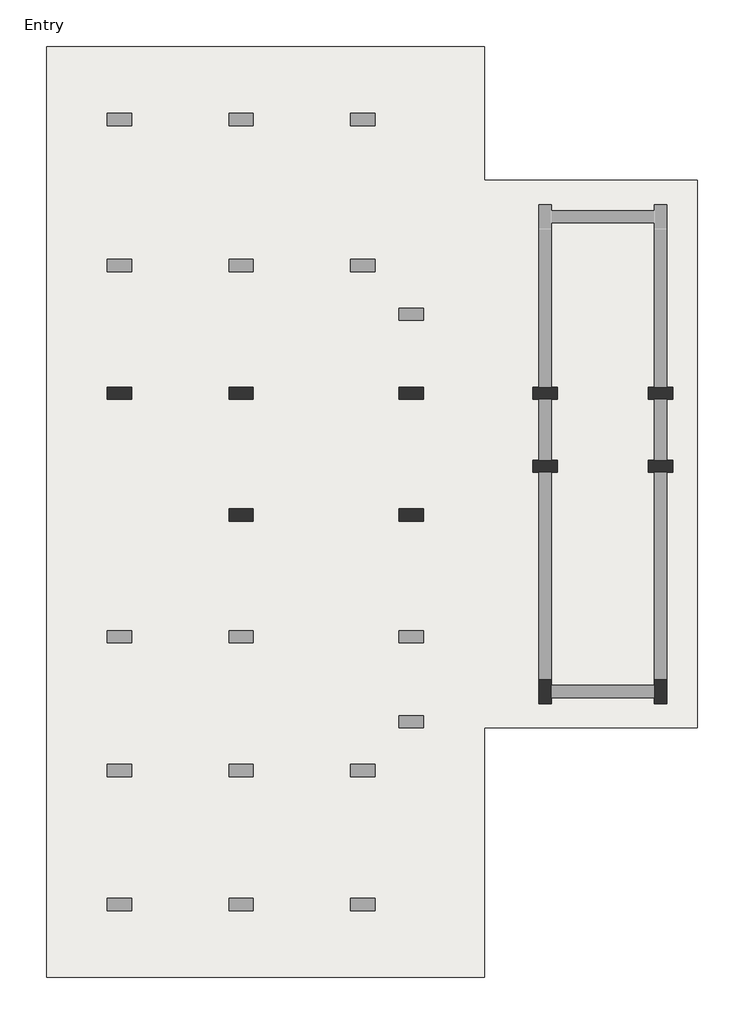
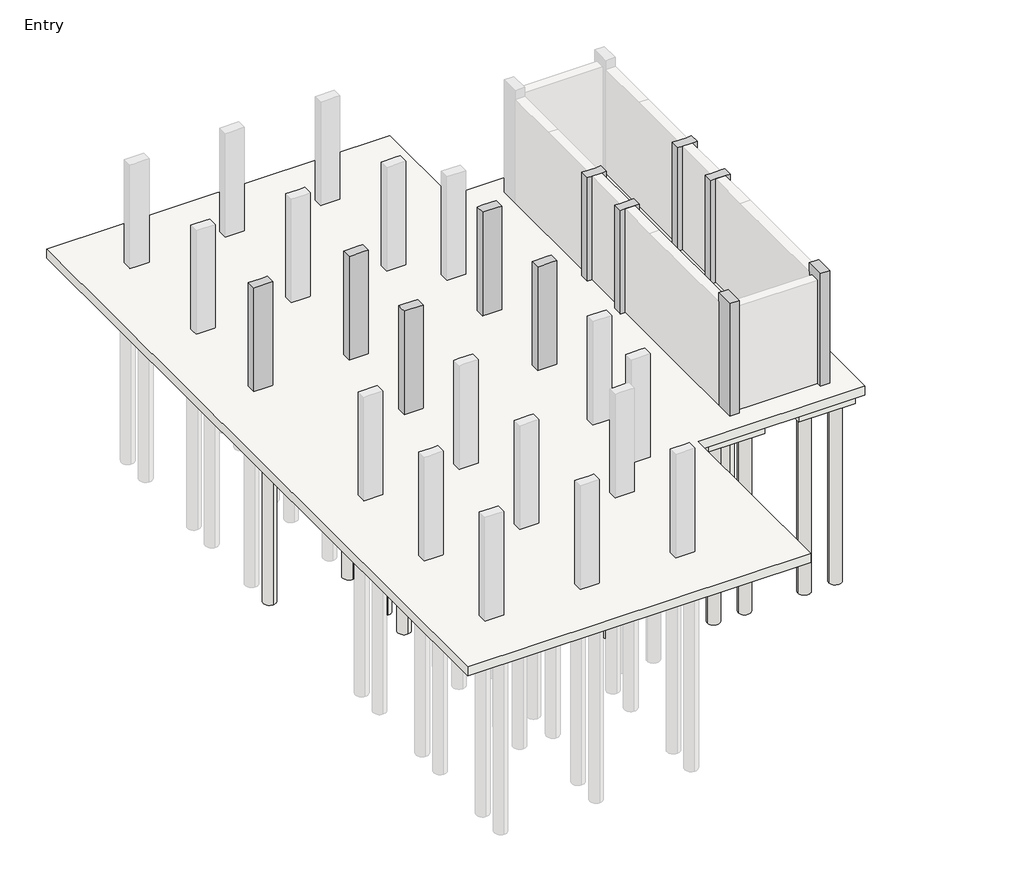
# One storey, part 2 of 3: 35 slabs, 11 columns.
"""IFC4 building model written with IfcOpenShell, lengths in millimetres."""

from ifc_helpers import new_model, si_unit, point, frame, frame_2d, origin, place, context, project, spatial, polyline, circle_curve, trimmed, segment, composite_curve, outline, extrude, faceted_brep, element, save

model = new_model("IFC4")

# Units and contexts
model_context = context("Model", 3, world=origin())
ifc_project = project(units=[si_unit("LENGTHUNIT", "METRE", prefix="MILLI")], contexts=[model_context])

# Site, building, storey
site = spatial("IfcSite", under=ifc_project)
building = spatial("IfcBuilding", under=site)
storey = spatial("IfcBuildingStorey", under=building, Name="Entry", Elevation=0.0)

# Columns
placement = place(None, origin())
element("IfcColumn", 1, ObjectType="Concrete-Rectangular-Column : 12 x 24", at=placement, inside=storey, context=model_context, shape_type="Brep", body=[
    faceted_brep([(-15677.5554735, 7788.9867088, 0.0), (-15067.9554735, 7788.9867088, 0.0), (-15067.9554735, 7484.1867088, 0.0), (-15677.5554735, 7484.1867088, 0.0), (-15677.5554735, 7788.9867088, 3505.2), (-15525.1554735, 7788.9867088, 3505.2), (-15220.3554735, 7788.9867088, 3505.2), (-15067.9554735, 7788.9867088, 3505.2), (-15067.9554735, 7788.9867088, 2895.6), (-15067.9554735, 7484.1867088, 3505.2), (-15067.9554735, 7484.1867088, 2895.6), (-15677.5554735, 7484.1867088, 3505.2)], [[[0, 1, 2, 3]], [[4, 5, 6, 7, 8, 1, 0]], [[7, 9, 10, 2, 1, 8]], [[9, 11, 3, 2, 10]], [[11, 4, 0, 3]], [[4, 11, 9, 7, 6, 5]]]),
])
element("IfcColumn", 2, ObjectType="Concrete-Rectangular-Column : 12 x 24", at=placement, inside=storey, context=model_context, shape_type="Brep", body=[
    faceted_brep([(-12629.5554735, 7788.9867088, 0.0), (-12019.9554735, 7788.9867088, 0.0), (-12019.9554735, 7484.1867088, 0.0), (-12629.5554735, 7484.1867088, 0.0), (-12629.5554735, 7788.9867088, 3505.2), (-12477.1554735, 7788.9867088, 3505.2), (-12172.3554735, 7788.9867088, 3505.2), (-12019.9554735, 7788.9867088, 3505.2), (-12019.9554735, 7788.9867088, 2895.6), (-12629.5554735, 7788.9867088, 2895.6), (-12019.9554735, 7484.1867088, 3505.2), (-12019.9554735, 7484.1867088, 2895.6), (-12172.3554735, 7484.1867088, 3505.2), (-12477.1554735, 7484.1867088, 3505.2), (-12629.5554735, 7484.1867088, 3505.2), (-12629.5554735, 7484.1867088, 2895.6)], [[[0, 1, 2, 3]], [[4, 5, 6, 7, 8, 1, 0, 9]], [[7, 10, 11, 2, 1, 8]], [[10, 12, 13, 14, 15, 3, 2, 11]], [[14, 4, 9, 0, 3, 15]], [[4, 14, 13, 12, 10, 7, 6, 5]]]),
])
element("IfcColumn", 3, ObjectType="Concrete-Rectangular-Column : 12 x 24", at=placement, inside=storey, context=model_context, shape_type="Brep", body=[
    faceted_brep([(-8362.3554735, 7788.9867088, 0.0), (-7752.7554735, 7788.9867088, 0.0), (-7752.7554735, 7484.1867088, 0.0), (-8362.3554735, 7484.1867088, 0.0), (-8362.3554735, 7788.9867088, 3505.2), (-8209.9554735, 7788.9867088, 3505.2), (-7905.1554735, 7788.9867088, 3505.2), (-7752.7554735, 7788.9867088, 3505.2), (-7752.7554735, 7788.9867088, 2895.6), (-8362.3554735, 7788.9867088, 2895.6), (-7752.7554735, 7484.1867088, 3505.2), (-7752.7554735, 7484.1867088, 2895.6), (-7905.1554735, 7484.1867088, 3505.2), (-8209.9554735, 7484.1867088, 3505.2), (-8362.3554735, 7484.1867088, 3505.2), (-8362.3554735, 7484.1867088, 2895.6)], [[[0, 1, 2, 3]], [[4, 5, 6, 7, 8, 1, 0, 9]], [[7, 10, 11, 2, 1, 8]], [[10, 12, 13, 14, 15, 3, 2, 11]], [[14, 4, 9, 0, 3, 15]], [[4, 14, 13, 12, 10, 7, 6, 5]]]),
])
element("IfcColumn", 4, ObjectType="Concrete-Rectangular-Column : 12 x 24", at=placement, inside=storey, context=model_context, shape_type="Brep", body=[
    faceted_brep([(-5009.5554735, 7788.9867088, 0.0), (-4857.1554735, 7788.9867088, 0.0), (-4552.3554735, 7788.9867088, 0.0), (-4399.9554735, 7788.9867088, 0.0), (-4399.9554735, 7484.1867088, 0.0), (-4552.3554735, 7484.1867088, 0.0), (-4857.1554735, 7484.1867088, 0.0), (-5009.5554735, 7484.1867088, 0.0), (-5009.5554735, 7788.9867088, 3505.2), (-4857.1554735, 7788.9867088, 3505.2), (-4552.3554735, 7788.9867088, 3505.2), (-4399.9554735, 7788.9867088, 3505.2), (-4399.9554735, 7484.1867088, 3505.2), (-4552.3554735, 7484.1867088, 3505.2), (-4857.1554735, 7484.1867088, 3505.2), (-5009.5554735, 7484.1867088, 3505.2)], [[[0, 1, 2, 3, 4, 5, 6, 7]], [[3, 2, 1, 0, 8, 9, 10, 11]], [[4, 3, 11, 12]], [[7, 6, 5, 4, 12, 13, 14, 15]], [[0, 7, 15, 8]], [[11, 10, 9, 8, 15, 14, 13, 12]]]),
])
element("IfcColumn", 5, ObjectType="Concrete-Rectangular-Column : 12 x 24", at=placement, inside=storey, context=model_context, shape_type="Brep", body=[
    faceted_brep([(-2113.9554735, 7788.9867088, 0.0), (-1961.5554735, 7788.9867088, 0.0), (-1656.7554735, 7788.9867088, 0.0), (-1504.3554735, 7788.9867088, 0.0), (-1504.3554735, 7484.1867088, 0.0), (-1656.7554735, 7484.1867088, 0.0), (-1961.5554735, 7484.1867088, 0.0), (-2113.9554735, 7484.1867088, 0.0), (-2113.9554735, 7788.9867088, 3505.2), (-1961.5554735, 7788.9867088, 3505.2), (-1656.7554735, 7788.9867088, 3505.2), (-1504.3554735, 7788.9867088, 3505.2), (-1504.3554735, 7484.1867088, 3505.2), (-1656.7554735, 7484.1867088, 3505.2), (-1961.5554735, 7484.1867088, 3505.2), (-2113.9554735, 7484.1867088, 3505.2)], [[[0, 1, 2, 3, 4, 5, 6, 7]], [[3, 2, 1, 0, 8, 9, 10, 11]], [[4, 3, 11, 12]], [[7, 6, 5, 4, 12, 13, 14, 15]], [[0, 7, 15, 8]], [[11, 10, 9, 8, 15, 14, 13, 12]]]),
])
element("IfcColumn", 6, ObjectType="Concrete-Rectangular-Column : 12 x 24", at=placement, inside=storey, context=model_context, shape_type="Brep", body=[
    faceted_brep([(-5009.5554735, 5960.1867088, 0.0), (-4857.1554735, 5960.1867088, 0.0), (-4552.3554735, 5960.1867088, 0.0), (-4399.9554735, 5960.1867088, 0.0), (-4399.9554735, 5655.3867088, 0.0), (-4552.3554735, 5655.3867088, 0.0), (-4857.1554735, 5655.3867088, 0.0), (-5009.5554735, 5655.3867088, 0.0), (-5009.5554735, 5960.1867088, 3505.2), (-4857.1554735, 5960.1867088, 3505.2), (-4552.3554735, 5960.1867088, 3505.2), (-4399.9554735, 5960.1867088, 3505.2), (-4399.9554735, 5655.3867088, 3505.2), (-4552.3554735, 5655.3867088, 3505.2), (-4857.1554735, 5655.3867088, 3505.2), (-5009.5554735, 5655.3867088, 3505.2)], [[[0, 1, 2, 3, 4, 5, 6, 7]], [[3, 2, 1, 0, 8, 9, 10, 11]], [[4, 3, 11, 12]], [[7, 6, 5, 4, 12, 13, 14, 15]], [[0, 7, 15, 8]], [[11, 10, 9, 8, 15, 14, 13, 12]]]),
])
element("IfcColumn", 7, ObjectType="Concrete-Rectangular-Column : 12 x 24", at=placement, inside=storey, context=model_context, shape_type="Brep", body=[
    faceted_brep([(-2113.9554735, 5960.1867088, 0.0), (-1961.5554735, 5960.1867088, 0.0), (-1656.7554735, 5960.1867088, 0.0), (-1504.3554735, 5960.1867088, 0.0), (-1504.3554735, 5655.3867088, 0.0), (-1656.7554735, 5655.3867088, 0.0), (-1961.5554735, 5655.3867088, 0.0), (-2113.9554735, 5655.3867088, 0.0), (-2113.9554735, 5960.1867088, 3505.2), (-1961.5554735, 5960.1867088, 3505.2), (-1656.7554735, 5960.1867088, 3505.2), (-1504.3554735, 5960.1867088, 3505.2), (-1504.3554735, 5655.3867088, 3505.2), (-1656.7554735, 5655.3867088, 3505.2), (-1961.5554735, 5655.3867088, 3505.2), (-2113.9554735, 5655.3867088, 3505.2)], [[[0, 1, 2, 3, 4, 5, 6, 7]], [[3, 2, 1, 0, 8, 9, 10, 11]], [[4, 3, 11, 12]], [[7, 6, 5, 4, 12, 13, 14, 15]], [[0, 7, 15, 8]], [[11, 10, 9, 8, 15, 14, 13, 12]]]),
])
element("IfcColumn", 8, ObjectType="Concrete-Rectangular-Column : 12 x 24", at=placement, inside=storey, context=model_context, shape_type="Brep", body=[
    faceted_brep([(-12629.5554735, 4740.9867088, 0.0), (-12019.9554735, 4740.9867088, 0.0), (-12019.9554735, 4436.1867088, 0.0), (-12629.5554735, 4436.1867088, 0.0), (-12629.5554735, 4740.9867088, 3505.2), (-12477.1554735, 4740.9867088, 3505.2), (-12172.3554735, 4740.9867088, 3505.2), (-12019.9554735, 4740.9867088, 3505.2), (-12019.9554735, 4740.9867088, 2895.6), (-12019.9554735, 4436.1867088, 3505.2), (-12019.9554735, 4436.1867088, 2895.6), (-12172.3554735, 4436.1867088, 3505.2), (-12477.1554735, 4436.1867088, 3505.2), (-12629.5554735, 4436.1867088, 3505.2), (-12629.5554735, 4588.5867088, 3505.2)], [[[0, 1, 2, 3]], [[4, 5, 6, 7, 8, 1, 0]], [[7, 9, 10, 2, 1, 8]], [[9, 11, 12, 13, 3, 2, 10]], [[13, 14, 4, 0, 3]], [[4, 14, 13, 12, 11, 9, 7, 6, 5]]]),
])
element("IfcColumn", 9, ObjectType="Concrete-Rectangular-Column : 12 x 24", at=placement, inside=storey, context=model_context, shape_type="Brep", body=[
    faceted_brep([(-8362.3554735, 4740.9867088, 0.0), (-7752.7554735, 4740.9867088, 0.0), (-7752.7554735, 4436.1867088, 0.0), (-8362.3554735, 4436.1867088, 0.0), (-8362.3554735, 4740.9867088, 3505.2), (-8209.9554735, 4740.9867088, 3505.2), (-7905.1554735, 4740.9867088, 3505.2), (-7752.7554735, 4740.9867088, 3505.2), (-8362.3554735, 4740.9867088, 2895.6), (-7752.7554735, 4436.1867088, 3505.2), (-7905.1554735, 4436.1867088, 3505.2), (-8209.9554735, 4436.1867088, 3505.2), (-8362.3554735, 4436.1867088, 3505.2), (-8362.3554735, 4436.1867088, 2895.6)], [[[0, 1, 2, 3]], [[4, 5, 6, 7, 1, 0, 8]], [[7, 9, 2, 1]], [[9, 10, 11, 12, 13, 3, 2]], [[12, 4, 8, 0, 3, 13]], [[4, 12, 11, 10, 9, 7, 6, 5]]]),
])
element("IfcColumn", 10, ObjectType="Concrete-Rectangular-Column : 12 x 24", at=placement, inside=storey, context=model_context, shape_type="Brep", body=[
    faceted_brep([(-4857.1554735, -135.8132912, 0.0), (-4857.1554735, 473.7867088, 0.0), (-4552.3554735, 473.7867088, 0.0), (-4552.3554735, 321.3867088, 0.0), (-4552.3554735, 16.5867088, 0.0), (-4552.3554735, -135.8132912, 0.0), (-4857.1554735, -135.8132912, 3810.0), (-4857.1554735, 473.7867088, 3810.0), (-4857.1554735, 473.7867088, 3505.2), (-4552.3554735, 473.7867088, 3810.0), (-4552.3554735, 473.7867088, 3505.2), (-4552.3554735, -135.8132912, 3810.0)], [[[0, 1, 2, 3, 4, 5]], [[6, 7, 8, 1, 0]], [[7, 9, 10, 2, 1, 8]], [[9, 11, 5, 4, 3, 2, 10]], [[11, 6, 0, 5]], [[6, 11, 9, 7]]]),
])
element("IfcColumn", 11, ObjectType="Concrete-Rectangular-Column : 12 x 24", at=placement, inside=storey, context=model_context, shape_type="Brep", body=[
    faceted_brep([(-1961.5554735, -135.8132912, 0.0), (-1961.5554735, 16.5867088, 0.0), (-1961.5554735, 321.3867088, 0.0), (-1961.5554735, 473.7867088, 0.0), (-1656.7554735, 473.7867088, 0.0), (-1656.7554735, -135.8132912, 0.0), (-1961.5554735, -135.8132912, 3810.0), (-1961.5554735, 473.7867088, 3810.0), (-1961.5554735, 473.7867088, 3505.2), (-1656.7554735, 473.7867088, 3810.0), (-1656.7554735, 473.7867088, 3505.2), (-1656.7554735, -135.8132912, 3810.0)], [[[0, 1, 2, 3, 4, 5]], [[6, 7, 8, 3, 2, 1, 0]], [[7, 9, 10, 4, 3, 8]], [[9, 11, 5, 4, 10]], [[11, 6, 0, 5]], [[6, 11, 9, 7]]]),
])

# Slabs
element("IfcSlab", 12, ObjectType="12\" Foundation Slab", at=placement, inside=storey, context=model_context, shape_type="SweptSolid", body=[
    extrude(outline(polyline([(-6228.7554735, 16323.3867088), (-6228.7554735, 12970.5867088), (-894.7554735, 12970.5867088), (-894.7554735, -745.4132912), (-6228.7554735, -745.4132912), (-6228.7554735, -6993.8132912), (-17201.5554735, -6993.8132912), (-17201.5554735, 16323.3867088), (-6228.7554735, 16323.3867088)])), frame((0.0, 0.0, -304.8), z_axis=(0.0, 0.0, 1.0), x_axis=(1.0, 0.0, 0.0)), (0.0, 0.0, 1.0), 304.8),
])
element("IfcSlab", 13, ObjectType="Pile Cap-2 Pile : 31\"x61\"x35\"", at=placement, inside=storey, context=model_context, shape_type="SweptSolid", body=[
    extrude(outline(polyline([(-15779.1554735, 8538.2867088), (-14966.3554735, 8538.2867088), (-14966.3554735, 6734.8867088), (-15779.1554735, 6734.8867088), (-15779.1554735, 8538.2867088)])), frame((0.0, 0.0, -889.0), z_axis=(0.0, 0.0, 1.0), x_axis=(1.0, 0.0, 0.0)), (0.0, 0.0, 1.0), 584.2),
])
element("IfcSlab", 14, ObjectType="Pile Cap-2 Pile : 31\"x61\"x35\"", at=placement, inside=storey, context=model_context, shape_type="SweptSolid", body=[
    extrude(outline(polyline([(-8463.9554735, 2442.2867088), (-7651.1554735, 2442.2867088), (-7651.1554735, 638.8867088), (-8463.9554735, 638.8867088), (-8463.9554735, 2442.2867088)])), frame((0.0, 0.0, -889.0), z_axis=(0.0, 0.0, 1.0), x_axis=(1.0, 0.0, 0.0)), (0.0, 0.0, 1.0), 584.2),
])
element("IfcSlab", 15, ObjectType="Pile Cap-2 Pile : 31\"x61\"x35\"", at=placement, inside=storey, context=model_context, shape_type="SweptSolid", body=[
    extrude(outline(polyline([(-8463.9554735, 5490.2867088), (-7651.1554735, 5490.2867088), (-7651.1554735, 3686.8867088), (-8463.9554735, 3686.8867088), (-8463.9554735, 5490.2867088)])), frame((0.0, 0.0, -889.0), z_axis=(0.0, 0.0, 1.0), x_axis=(1.0, 0.0, 0.0)), (0.0, 0.0, 1.0), 584.2),
])
element("IfcSlab", 16, ObjectType="Pile Cap-2 Pile : 31\"x61\"x35\"", at=placement, inside=storey, context=model_context, shape_type="SweptSolid", body=[
    extrude(outline(polyline([(-8463.9554735, 8538.2867088), (-7651.1554735, 8538.2867088), (-7651.1554735, 6734.8867088), (-8463.9554735, 6734.8867088), (-8463.9554735, 8538.2867088)])), frame((0.0, 0.0, -889.0), z_axis=(0.0, 0.0, 1.0), x_axis=(1.0, 0.0, 0.0)), (0.0, 0.0, 1.0), 584.2),
])
element("IfcSlab", 17, ObjectType="Pile Cap-2 Pile : 31\"x61\"x35\"", at=placement, inside=storey, context=model_context, shape_type="SweptSolid", body=[
    extrude(outline(polyline([(-5111.1554735, 8538.2867088), (-4298.3554735, 8538.2867088), (-4298.3554735, 6734.8867088), (-5111.1554735, 6734.8867088), (-5111.1554735, 8538.2867088)])), frame((0.0, 0.0, -889.0), z_axis=(0.0, 0.0, 1.0), x_axis=(1.0, 0.0, 0.0)), (0.0, 0.0, 1.0), 584.2),
])
element("IfcSlab", 18, ObjectType="Pile Cap-2 Pile : 31\"x61\"x35\"", at=placement, inside=storey, context=model_context, shape_type="SweptSolid", body=[
    extrude(outline(polyline([(-2215.5554735, 8538.2867088), (-1402.7554735, 8538.2867088), (-1402.7554735, 6734.8867088), (-2215.5554735, 6734.8867088), (-2215.5554735, 8538.2867088)])), frame((0.0, 0.0, -889.0), z_axis=(0.0, 0.0, 1.0), x_axis=(1.0, 0.0, 0.0)), (0.0, 0.0, 1.0), 584.2),
])
element("IfcSlab", 19, ObjectType="Pile Cap-2 Pile : 31\"x61\"x35\"", at=placement, inside=storey, context=model_context, shape_type="SweptSolid", body=[
    extrude(outline(polyline([(-5111.1554735, 6709.4867088), (-4298.3554735, 6709.4867088), (-4298.3554735, 4906.0867088), (-5111.1554735, 4906.0867088), (-5111.1554735, 6709.4867088)])), frame((0.0, 0.0, -889.0), z_axis=(0.0, 0.0, 1.0), x_axis=(1.0, 0.0, 0.0)), (0.0, 0.0, 1.0), 584.2),
])
element("IfcSlab", 20, ObjectType="Pile Cap-2 Pile : 31\"x61\"x35\"", at=placement, inside=storey, context=model_context, shape_type="SweptSolid", body=[
    extrude(outline(polyline([(-2215.5554735, 6709.4867088), (-1402.7554735, 6709.4867088), (-1402.7554735, 4906.0867088), (-2215.5554735, 4906.0867088), (-2215.5554735, 6709.4867088)])), frame((0.0, 0.0, -889.0), z_axis=(0.0, 0.0, 1.0), x_axis=(1.0, 0.0, 0.0)), (0.0, 0.0, 1.0), 584.2),
])
element("IfcSlab", 21, ObjectType="Pile Cap-2 Pile : 31\"x61\"x35\"", at=placement, inside=storey, context=model_context, shape_type="SweptSolid", body=[
    extrude(outline(polyline([(-5606.4554735, -237.4132912), (-5606.4554735, 575.3867088), (-3803.0554735, 575.3867088), (-3803.0554735, -237.4132912), (-5606.4554735, -237.4132912)])), frame((0.0, 0.0, -889.0), z_axis=(0.0, 0.0, 1.0), x_axis=(1.0, 0.0, 0.0)), (0.0, 0.0, 1.0), 584.2),
])
element("IfcSlab", 22, ObjectType="Pile Cap-2 Pile : 31\"x61\"x35\"", at=placement, inside=storey, context=model_context, shape_type="SweptSolid", body=[
    extrude(outline(polyline([(-2710.8554735, -237.4132912), (-2710.8554735, 575.3867088), (-907.4554735, 575.3867088), (-907.4554735, -237.4132912), (-2710.8554735, -237.4132912)])), frame((0.0, 0.0, -889.0), z_axis=(0.0, 0.0, 1.0), x_axis=(1.0, 0.0, 0.0)), (0.0, 0.0, 1.0), 584.2),
])
element("IfcSlab", 23, ObjectType="Pile Cap-4 Pile : 72\"x72\"x35\"", at=placement, inside=storey, context=model_context, shape_type="SweptSolid", body=[
    extrude(outline(polyline([(-13239.1554735, 8550.9867088), (-11410.3554735, 8550.9867088), (-11410.3554735, 6722.1867088), (-13239.1554735, 6722.1867088), (-13239.1554735, 8550.9867088)])), frame((0.0, 0.0, -889.0), z_axis=(0.0, 0.0, 1.0), x_axis=(1.0, 0.0, 0.0)), (0.0, 0.0, 1.0), 584.2),
])
element("IfcSlab", 24, ObjectType="Pile Cap-4 Pile : 72\"x72\"x35\"", at=placement, inside=storey, context=model_context, shape_type="SweptSolid", body=[
    extrude(outline(polyline([(-13239.1554735, 5502.9867088), (-11410.3554735, 5502.9867088), (-11410.3554735, 3674.1867088), (-13239.1554735, 3674.1867088), (-13239.1554735, 5502.9867088)])), frame((0.0, 0.0, -889.0), z_axis=(0.0, 0.0, 1.0), x_axis=(1.0, 0.0, 0.0)), (0.0, 0.0, 1.0), 584.2),
])
element("IfcSlab", 25, ObjectType="Pile-Steel Pipe : 16\" Diameter", at=placement, inside=storey, context=model_context, shape_type="SweptSolid", body=[
    extrude(outline(composite_curve([segment(trimmed(circle_curve(frame_2d((-12858.1554735, 7103.1867088)), 203.2), [point((-12858.1554735, 6899.9867088))], [point((-12858.1554735, 7306.3867088))], False, "CARTESIAN"), True, "CONTINUOUS"), segment(trimmed(circle_curve(frame_2d((-12858.1554735, 7103.1867088)), 203.2), [point((-12858.1554735, 7306.3867088))], [point((-12858.1554735, 6899.9867088))], False, "CARTESIAN"), True, "CONTINUOUS")], self_intersect=False)), frame((0.0, 0.0, -6985.0), z_axis=(0.0, 0.0, 1.0), x_axis=(1.0, 0.0, 0.0)), (0.0, 0.0, 1.0), 6096.0),
])
element("IfcSlab", 26, ObjectType="Pile-Steel Pipe : 16\" Diameter", at=placement, inside=storey, context=model_context, shape_type="SweptSolid", body=[
    extrude(outline(composite_curve([segment(trimmed(circle_curve(frame_2d((-11791.3554735, 7103.1867088)), 203.2), [point((-11791.3554735, 6899.9867088))], [point((-11791.3554735, 7306.3867088))], False, "CARTESIAN"), True, "CONTINUOUS"), segment(trimmed(circle_curve(frame_2d((-11791.3554735, 7103.1867088)), 203.2), [point((-11791.3554735, 7306.3867088))], [point((-11791.3554735, 6899.9867088))], False, "CARTESIAN"), True, "CONTINUOUS")], self_intersect=False)), frame((0.0, 0.0, -6985.0), z_axis=(0.0, 0.0, 1.0), x_axis=(1.0, 0.0, 0.0)), (0.0, 0.0, 1.0), 6096.0),
])
element("IfcSlab", 27, ObjectType="Pile-Steel Pipe : 16\" Diameter", at=placement, inside=storey, context=model_context, shape_type="SweptSolid", body=[
    extrude(outline(composite_curve([segment(trimmed(circle_curve(frame_2d((-12858.1554735, 4055.1867088)), 203.2), [point((-12858.1554735, 3851.9867088))], [point((-12858.1554735, 4258.3867088))], False, "CARTESIAN"), True, "CONTINUOUS"), segment(trimmed(circle_curve(frame_2d((-12858.1554735, 4055.1867088)), 203.2), [point((-12858.1554735, 4258.3867088))], [point((-12858.1554735, 3851.9867088))], False, "CARTESIAN"), True, "CONTINUOUS")], self_intersect=False)), frame((0.0, 0.0, -6985.0), z_axis=(0.0, 0.0, 1.0), x_axis=(1.0, 0.0, 0.0)), (0.0, 0.0, 1.0), 6096.0),
])
element("IfcSlab", 28, ObjectType="Pile-Steel Pipe : 16\" Diameter", at=placement, inside=storey, context=model_context, shape_type="SweptSolid", body=[
    extrude(outline(composite_curve([segment(trimmed(circle_curve(frame_2d((-11791.3554735, 4055.1867088)), 203.2), [point((-11791.3554735, 3851.9867088))], [point((-11791.3554735, 4258.3867088))], False, "CARTESIAN"), True, "CONTINUOUS"), segment(trimmed(circle_curve(frame_2d((-11791.3554735, 4055.1867088)), 203.2), [point((-11791.3554735, 4258.3867088))], [point((-11791.3554735, 3851.9867088))], False, "CARTESIAN"), True, "CONTINUOUS")], self_intersect=False)), frame((0.0, 0.0, -6985.0), z_axis=(0.0, 0.0, 1.0), x_axis=(1.0, 0.0, 0.0)), (0.0, 0.0, 1.0), 6096.0),
])
element("IfcSlab", 29, ObjectType="Pile-Steel Pipe : 16\" Diameter", at=placement, inside=storey, context=model_context, shape_type="SweptSolid", body=[
    extrude(outline(composite_curve([segment(trimmed(circle_curve(frame_2d((-11791.3554735, 5121.9867088)), 203.2), [point((-11791.3554735, 4918.7867088))], [point((-11791.3554735, 5325.1867088))], False, "CARTESIAN"), True, "CONTINUOUS"), segment(trimmed(circle_curve(frame_2d((-11791.3554735, 5121.9867088)), 203.2), [point((-11791.3554735, 5325.1867088))], [point((-11791.3554735, 4918.7867088))], False, "CARTESIAN"), True, "CONTINUOUS")], self_intersect=False)), frame((0.0, 0.0, -6985.0), z_axis=(0.0, 0.0, 1.0), x_axis=(1.0, 0.0, 0.0)), (0.0, 0.0, 1.0), 6096.0),
])
element("IfcSlab", 30, ObjectType="Pile-Steel Pipe : 16\" Diameter", at=placement, inside=storey, context=model_context, shape_type="SweptSolid", body=[
    extrude(outline(composite_curve([segment(trimmed(circle_curve(frame_2d((-12858.1554735, 5121.9867088)), 203.2), [point((-12858.1554735, 4918.7867088))], [point((-12858.1554735, 5325.1867088))], False, "CARTESIAN"), True, "CONTINUOUS"), segment(trimmed(circle_curve(frame_2d((-12858.1554735, 5121.9867088)), 203.2), [point((-12858.1554735, 5325.1867088))], [point((-12858.1554735, 4918.7867088))], False, "CARTESIAN"), True, "CONTINUOUS")], self_intersect=False)), frame((0.0, 0.0, -6985.0), z_axis=(0.0, 0.0, 1.0), x_axis=(1.0, 0.0, 0.0)), (0.0, 0.0, 1.0), 6096.0),
])
element("IfcSlab", 31, ObjectType="Pile-Steel Pipe : 16\" Diameter", at=placement, inside=storey, context=model_context, shape_type="SweptSolid", body=[
    extrude(outline(composite_curve([segment(trimmed(circle_curve(frame_2d((-11791.3554735, 2073.9867088)), 203.2), [point((-11791.3554735, 1870.7867088))], [point((-11791.3554735, 2277.1867088))], False, "CARTESIAN"), True, "CONTINUOUS"), segment(trimmed(circle_curve(frame_2d((-11791.3554735, 2073.9867088)), 203.2), [point((-11791.3554735, 2277.1867088))], [point((-11791.3554735, 1870.7867088))], False, "CARTESIAN"), True, "CONTINUOUS")], self_intersect=False)), frame((0.0, 0.0, -6985.0), z_axis=(0.0, 0.0, 1.0), x_axis=(1.0, 0.0, 0.0)), (0.0, 0.0, 1.0), 6096.0),
])
element("IfcSlab", 32, ObjectType="Pile-Steel Pipe : 16\" Diameter", at=placement, inside=storey, context=model_context, shape_type="SweptSolid", body=[
    extrude(outline(composite_curve([segment(trimmed(circle_curve(frame_2d((-15372.7554735, 7141.2867088)), 203.2), [point((-15372.7554735, 6938.0867088))], [point((-15372.7554735, 7344.4867088))], False, "CARTESIAN"), True, "CONTINUOUS"), segment(trimmed(circle_curve(frame_2d((-15372.7554735, 7141.2867088)), 203.2), [point((-15372.7554735, 7344.4867088))], [point((-15372.7554735, 6938.0867088))], False, "CARTESIAN"), True, "CONTINUOUS")], self_intersect=False)), frame((0.0, 0.0, -6985.0), z_axis=(0.0, 0.0, 1.0), x_axis=(1.0, 0.0, 0.0)), (0.0, 0.0, 1.0), 6096.0),
])
element("IfcSlab", 33, ObjectType="Pile-Steel Pipe : 16\" Diameter", at=placement, inside=storey, context=model_context, shape_type="SweptSolid", body=[
    extrude(outline(composite_curve([segment(trimmed(circle_curve(frame_2d((-8057.5554735, 2035.8867088)), 203.2), [point((-8057.5554735, 1832.6867088))], [point((-8057.5554735, 2239.0867088))], False, "CARTESIAN"), True, "CONTINUOUS"), segment(trimmed(circle_curve(frame_2d((-8057.5554735, 2035.8867088)), 203.2), [point((-8057.5554735, 2239.0867088))], [point((-8057.5554735, 1832.6867088))], False, "CARTESIAN"), True, "CONTINUOUS")], self_intersect=False)), frame((0.0, 0.0, -6985.0), z_axis=(0.0, 0.0, 1.0), x_axis=(1.0, 0.0, 0.0)), (0.0, 0.0, 1.0), 6096.0),
])
element("IfcSlab", 34, ObjectType="Pile-Steel Pipe : 16\" Diameter", at=placement, inside=storey, context=model_context, shape_type="SweptSolid", body=[
    extrude(outline(composite_curve([segment(trimmed(circle_curve(frame_2d((-8057.5554735, 1045.2867088)), 203.2), [point((-8057.5554735, 842.0867088))], [point((-8057.5554735, 1248.4867088))], False, "CARTESIAN"), True, "CONTINUOUS"), segment(trimmed(circle_curve(frame_2d((-8057.5554735, 1045.2867088)), 203.2), [point((-8057.5554735, 1248.4867088))], [point((-8057.5554735, 842.0867088))], False, "CARTESIAN"), True, "CONTINUOUS")], self_intersect=False)), frame((0.0, 0.0, -6985.0), z_axis=(0.0, 0.0, 1.0), x_axis=(1.0, 0.0, 0.0)), (0.0, 0.0, 1.0), 6096.0),
])
element("IfcSlab", 35, ObjectType="Pile-Steel Pipe : 16\" Diameter", at=placement, inside=storey, context=model_context, shape_type="SweptSolid", body=[
    extrude(outline(composite_curve([segment(trimmed(circle_curve(frame_2d((-8057.5554735, 5083.8867088)), 203.2), [point((-8057.5554735, 4880.6867088))], [point((-8057.5554735, 5287.0867088))], False, "CARTESIAN"), True, "CONTINUOUS"), segment(trimmed(circle_curve(frame_2d((-8057.5554735, 5083.8867088)), 203.2), [point((-8057.5554735, 5287.0867088))], [point((-8057.5554735, 4880.6867088))], False, "CARTESIAN"), True, "CONTINUOUS")], self_intersect=False)), frame((0.0, 0.0, -6985.0), z_axis=(0.0, 0.0, 1.0), x_axis=(1.0, 0.0, 0.0)), (0.0, 0.0, 1.0), 6096.0),
])
element("IfcSlab", 36, ObjectType="Pile-Steel Pipe : 16\" Diameter", at=placement, inside=storey, context=model_context, shape_type="SweptSolid", body=[
    extrude(outline(composite_curve([segment(trimmed(circle_curve(frame_2d((-8057.5554735, 4093.2867088)), 203.2), [point((-8057.5554735, 3890.0867088))], [point((-8057.5554735, 4296.4867088))], False, "CARTESIAN"), True, "CONTINUOUS"), segment(trimmed(circle_curve(frame_2d((-8057.5554735, 4093.2867088)), 203.2), [point((-8057.5554735, 4296.4867088))], [point((-8057.5554735, 3890.0867088))], False, "CARTESIAN"), True, "CONTINUOUS")], self_intersect=False)), frame((0.0, 0.0, -6985.0), z_axis=(0.0, 0.0, 1.0), x_axis=(1.0, 0.0, 0.0)), (0.0, 0.0, 1.0), 6096.0),
])
element("IfcSlab", 37, ObjectType="Pile-Steel Pipe : 16\" Diameter", at=placement, inside=storey, context=model_context, shape_type="SweptSolid", body=[
    extrude(outline(composite_curve([segment(trimmed(circle_curve(frame_2d((-8057.5554735, 7141.2867088)), 203.2), [point((-8057.5554735, 6938.0867088))], [point((-8057.5554735, 7344.4867088))], False, "CARTESIAN"), True, "CONTINUOUS"), segment(trimmed(circle_curve(frame_2d((-8057.5554735, 7141.2867088)), 203.2), [point((-8057.5554735, 7344.4867088))], [point((-8057.5554735, 6938.0867088))], False, "CARTESIAN"), True, "CONTINUOUS")], self_intersect=False)), frame((0.0, 0.0, -6985.0), z_axis=(0.0, 0.0, 1.0), x_axis=(1.0, 0.0, 0.0)), (0.0, 0.0, 1.0), 6096.0),
])
element("IfcSlab", 38, ObjectType="Pile-Steel Pipe : 16\" Diameter", at=placement, inside=storey, context=model_context, shape_type="SweptSolid", body=[
    extrude(outline(composite_curve([segment(trimmed(circle_curve(frame_2d((-4704.7554735, 7141.2867088)), 203.2), [point((-4704.7554735, 6938.0867088))], [point((-4704.7554735, 7344.4867088))], False, "CARTESIAN"), True, "CONTINUOUS"), segment(trimmed(circle_curve(frame_2d((-4704.7554735, 7141.2867088)), 203.2), [point((-4704.7554735, 7344.4867088))], [point((-4704.7554735, 6938.0867088))], False, "CARTESIAN"), True, "CONTINUOUS")], self_intersect=False)), frame((0.0, 0.0, -6985.0), z_axis=(0.0, 0.0, 1.0), x_axis=(1.0, 0.0, 0.0)), (0.0, 0.0, 1.0), 6096.0),
])
element("IfcSlab", 39, ObjectType="Pile-Steel Pipe : 16\" Diameter", at=placement, inside=storey, context=model_context, shape_type="SweptSolid", body=[
    extrude(outline(composite_curve([segment(trimmed(circle_curve(frame_2d((-4704.7554735, 6303.0867088)), 203.2), [point((-4704.7554735, 6099.8867088))], [point((-4704.7554735, 6506.2867088))], False, "CARTESIAN"), True, "CONTINUOUS"), segment(trimmed(circle_curve(frame_2d((-4704.7554735, 6303.0867088)), 203.2), [point((-4704.7554735, 6506.2867088))], [point((-4704.7554735, 6099.8867088))], False, "CARTESIAN"), True, "CONTINUOUS")], self_intersect=False)), frame((0.0, 0.0, -6985.0), z_axis=(0.0, 0.0, 1.0), x_axis=(1.0, 0.0, 0.0)), (0.0, 0.0, 1.0), 6096.0),
])
element("IfcSlab", 40, ObjectType="Pile-Steel Pipe : 16\" Diameter", at=placement, inside=storey, context=model_context, shape_type="SweptSolid", body=[
    extrude(outline(composite_curve([segment(trimmed(circle_curve(frame_2d((-4704.7554735, 5312.4867088)), 203.2), [point((-4704.7554735, 5109.2867088))], [point((-4704.7554735, 5515.6867088))], False, "CARTESIAN"), True, "CONTINUOUS"), segment(trimmed(circle_curve(frame_2d((-4704.7554735, 5312.4867088)), 203.2), [point((-4704.7554735, 5515.6867088))], [point((-4704.7554735, 5109.2867088))], False, "CARTESIAN"), True, "CONTINUOUS")], self_intersect=False)), frame((0.0, 0.0, -6985.0), z_axis=(0.0, 0.0, 1.0), x_axis=(1.0, 0.0, 0.0)), (0.0, 0.0, 1.0), 6096.0),
])
element("IfcSlab", 41, ObjectType="Pile-Steel Pipe : 16\" Diameter", at=placement, inside=storey, context=model_context, shape_type="SweptSolid", body=[
    extrude(outline(composite_curve([segment(trimmed(circle_curve(frame_2d((-1809.1554735, 6303.0867088)), 203.2), [point((-1809.1554735, 6099.8867088))], [point((-1809.1554735, 6506.2867088))], False, "CARTESIAN"), True, "CONTINUOUS"), segment(trimmed(circle_curve(frame_2d((-1809.1554735, 6303.0867088)), 203.2), [point((-1809.1554735, 6506.2867088))], [point((-1809.1554735, 6099.8867088))], False, "CARTESIAN"), True, "CONTINUOUS")], self_intersect=False)), frame((0.0, 0.0, -6985.0), z_axis=(0.0, 0.0, 1.0), x_axis=(1.0, 0.0, 0.0)), (0.0, 0.0, 1.0), 6096.0),
])
element("IfcSlab", 42, ObjectType="Pile-Steel Pipe : 16\" Diameter", at=placement, inside=storey, context=model_context, shape_type="SweptSolid", body=[
    extrude(outline(composite_curve([segment(trimmed(circle_curve(frame_2d((-1809.1554735, 5312.4867088)), 203.2), [point((-1809.1554735, 5109.2867088))], [point((-1809.1554735, 5515.6867088))], False, "CARTESIAN"), True, "CONTINUOUS"), segment(trimmed(circle_curve(frame_2d((-1809.1554735, 5312.4867088)), 203.2), [point((-1809.1554735, 5515.6867088))], [point((-1809.1554735, 5109.2867088))], False, "CARTESIAN"), True, "CONTINUOUS")], self_intersect=False)), frame((0.0, 0.0, -6985.0), z_axis=(0.0, 0.0, 1.0), x_axis=(1.0, 0.0, 0.0)), (0.0, 0.0, 1.0), 6096.0),
])
element("IfcSlab", 43, ObjectType="Pile-Steel Pipe : 16\" Diameter", at=placement, inside=storey, context=model_context, shape_type="SweptSolid", body=[
    extrude(outline(composite_curve([segment(trimmed(circle_curve(frame_2d((-5200.0554735, 168.9867088)), 203.2), [point((-4996.8554735, 168.9867088))], [point((-5403.2554735, 168.9867088))], False, "CARTESIAN"), True, "CONTINUOUS"), segment(trimmed(circle_curve(frame_2d((-5200.0554735, 168.9867088)), 203.2), [point((-5403.2554735, 168.9867088))], [point((-4996.8554735, 168.9867088))], False, "CARTESIAN"), True, "CONTINUOUS")], self_intersect=False)), frame((0.0, 0.0, -6985.0), z_axis=(0.0, 0.0, 1.0), x_axis=(1.0, 0.0, 0.0)), (0.0, 0.0, 1.0), 6096.0),
])
element("IfcSlab", 44, ObjectType="Pile-Steel Pipe : 16\" Diameter", at=placement, inside=storey, context=model_context, shape_type="SweptSolid", body=[
    extrude(outline(composite_curve([segment(trimmed(circle_curve(frame_2d((-4209.4554735, 168.9867088)), 203.2), [point((-4006.2554735, 168.9867088))], [point((-4412.6554735, 168.9867088))], False, "CARTESIAN"), True, "CONTINUOUS"), segment(trimmed(circle_curve(frame_2d((-4209.4554735, 168.9867088)), 203.2), [point((-4412.6554735, 168.9867088))], [point((-4006.2554735, 168.9867088))], False, "CARTESIAN"), True, "CONTINUOUS")], self_intersect=False)), frame((0.0, 0.0, -6985.0), z_axis=(0.0, 0.0, 1.0), x_axis=(1.0, 0.0, 0.0)), (0.0, 0.0, 1.0), 6096.0),
])
element("IfcSlab", 45, ObjectType="Pile-Steel Pipe : 16\" Diameter", at=placement, inside=storey, context=model_context, shape_type="SweptSolid", body=[
    extrude(outline(composite_curve([segment(trimmed(circle_curve(frame_2d((-2304.4554735, 168.9867088)), 203.2), [point((-2101.2554735, 168.9867088))], [point((-2507.6554735, 168.9867088))], False, "CARTESIAN"), True, "CONTINUOUS"), segment(trimmed(circle_curve(frame_2d((-2304.4554735, 168.9867088)), 203.2), [point((-2507.6554735, 168.9867088))], [point((-2101.2554735, 168.9867088))], False, "CARTESIAN"), True, "CONTINUOUS")], self_intersect=False)), frame((0.0, 0.0, -6985.0), z_axis=(0.0, 0.0, 1.0), x_axis=(1.0, 0.0, 0.0)), (0.0, 0.0, 1.0), 6096.0),
])
element("IfcSlab", 46, ObjectType="Pile-Steel Pipe : 16\" Diameter", at=placement, inside=storey, context=model_context, shape_type="SweptSolid", body=[
    extrude(outline(composite_curve([segment(trimmed(circle_curve(frame_2d((-1313.8554735, 168.9867088)), 203.2), [point((-1110.6554735, 168.9867088))], [point((-1517.0554735, 168.9867088))], False, "CARTESIAN"), True, "CONTINUOUS"), segment(trimmed(circle_curve(frame_2d((-1313.8554735, 168.9867088)), 203.2), [point((-1517.0554735, 168.9867088))], [point((-1110.6554735, 168.9867088))], False, "CARTESIAN"), True, "CONTINUOUS")], self_intersect=False)), frame((0.0, 0.0, -6985.0), z_axis=(0.0, 0.0, 1.0), x_axis=(1.0, 0.0, 0.0)), (0.0, 0.0, 1.0), 6096.0),
])

save(model, "model.ifc")
